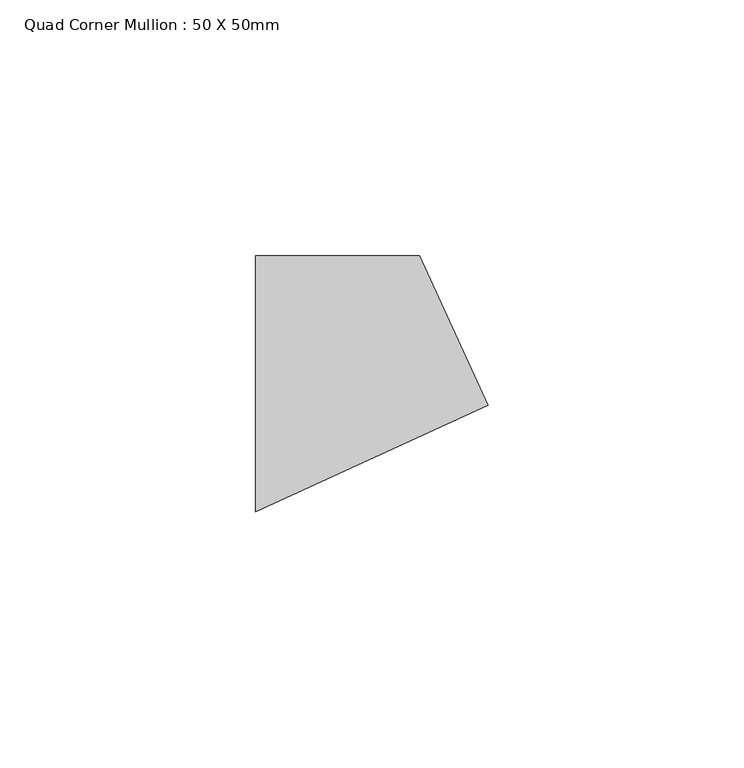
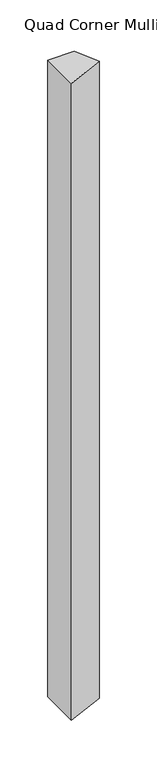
"""IFC4 building model written with IfcOpenShell, lengths in millimetres: member geometry, Quad Corner Mullion : 50 X 50mm."""

import ifcopenshell
import ifcopenshell.guid

model = None  # the IFC model being written
_history = None  # IfcOwnerHistory: only IFC2X3 demands one
_inside = {}  # id of a spatial element -> (the spatial element, [elements in it])
_under = {}  # id of a project, library or spatial element -> (it, [spatial elements below it])
_declared = {}  # id of a project -> (the project, [libraries it declares])
_typed = {}  # id of a type object -> (the type object, [elements of that type])
_made_of = {}  # id of a material, layer set ... -> (it, [elements and type objects made of it])


def new_model(schema):
    """Start an empty IFC model of exactly this schema.

    Asked for "IFC4X3", IfcOpenShell would pick the latest addendum, in which some entities
    have other attributes; the version numbers below select the first issue.
    IFC2X3 requires an IfcOwnerHistory on every rooted entity: one is made here for all.
    """
    global model, _history
    if schema == "IFC4X3":
        model = ifcopenshell.file(schema_version=(4, 3, 0, 0))
    else:
        model = ifcopenshell.file(schema=schema)
    _inside.clear()
    _under.clear()
    _declared.clear()
    _typed.clear()
    _made_of.clear()
    _history = None
    if model.schema == "IFC2X3":
        org = make("IfcOrganization", Name="unknown")
        user = make(
            "IfcPersonAndOrganization",
            ThePerson=make("IfcPerson", FamilyName="unknown"),
            TheOrganization=org,
        )
        app = make(
            "IfcApplication",
            ApplicationDeveloper=org,
            Version="unknown",
            ApplicationFullName="unknown",
            ApplicationIdentifier="unknown",
        )
        _history = make(
            "IfcOwnerHistory",
            OwningUser=user,
            OwningApplication=app,
            ChangeAction="ADDED",
            CreationDate=0,
        )
    return model


def make(cls, **values):
    """One entity of the class cls with the attributes given. An attribute that is None is left unset."""
    return model.create_entity(
        cls, **{name: value for name, value in values.items() if value is not None}
    )


def rooted(cls, **values):
    """An entity with a GlobalId (a new one), such as an element, a storey or a relation."""
    return make(cls, GlobalId=ifcopenshell.guid.new(), OwnerHistory=_history, **values)


def si_unit(unit_type, name, prefix=None):
    """IfcSIUnit, for example si_unit("LENGTHUNIT", "METRE", prefix="MILLI")."""
    return make("IfcSIUnit", UnitType=unit_type, Prefix=prefix, Name=name)


def assignment(units):
    """IfcUnitAssignment: the units of a project."""
    return None if units is None else make("IfcUnitAssignment", Units=units)


def point(xyz):
    """IfcCartesianPoint."""
    return None if xyz is None else make("IfcCartesianPoint", Coordinates=xyz)


def direction(xyz):
    """IfcDirection."""
    return None if xyz is None else make("IfcDirection", DirectionRatios=xyz)


def frame(location, z_axis=None, x_axis=None):
    """IfcAxis2Placement3D, a coordinate frame: its origin and axes. An axis left out is left unset."""
    return make(
        "IfcAxis2Placement3D",
        Location=point(location),
        Axis=direction(z_axis),
        RefDirection=direction(x_axis),
    )


def origin():
    """The frame at (0, 0, 0) with its axes left unset."""
    return frame((0.0, 0.0, 0.0))


def place(relative_to, where):
    """IfcLocalPlacement: puts the frame where relative to a parent placement (None: the world)."""
    return make(
        "IfcLocalPlacement", PlacementRelTo=relative_to, RelativePlacement=where
    )


def context(
    kind, dimensions, precision=None, world=None, true_north=None, identifier=None
):
    """IfcGeometricRepresentationContext, for example the 3D "Model" context."""
    return make(
        "IfcGeometricRepresentationContext",
        ContextIdentifier=identifier,
        ContextType=kind,
        CoordinateSpaceDimension=dimensions,
        Precision=precision,
        WorldCoordinateSystem=world,
        TrueNorth=true_north,
    )


def project(units=None, contexts=None):
    """IfcProject with its units and contexts."""
    return rooted(
        "IfcProject",
        Name="project",
        RepresentationContexts=contexts,
        UnitsInContext=assignment(units),
    )


def spatial(cls, under=None, at=None, **own):
    """A site, building, storey or space (cls), placed at a placement, below another one or the project."""
    s = rooted(cls, ObjectPlacement=at, **own)
    if under is not None:
        _under.setdefault(under.id(), (under, []))[1].append(s)
    return s


def polyline(points):
    """IfcPolyline through the points."""
    return make("IfcPolyline", Points=[point(p) for p in points])


def outline(outer, holes=None, kind="AREA"):
    """IfcArbitraryClosedProfileDef: a profile drawn as a closed curve; with holes, ...WithVoids."""
    if holes is None:
        return make("IfcArbitraryClosedProfileDef", ProfileType=kind, OuterCurve=outer)
    return make(
        "IfcArbitraryProfileDefWithVoids",
        ProfileType=kind,
        OuterCurve=outer,
        InnerCurves=holes,
    )


def extrude(swept, where, along, depth):
    """IfcExtrudedAreaSolid: the profile swept, set in the frame where, extruded along a direction by depth."""
    return make(
        "IfcExtrudedAreaSolid",
        SweptArea=swept,
        Position=where,
        ExtrudedDirection=direction(along),
        Depth=depth,
    )


def shape(context_of_items, identifier, shape_type, items):
    """IfcShapeRepresentation: the items that make up one representation, for example the "Body"."""
    return make(
        "IfcShapeRepresentation",
        ContextOfItems=context_of_items,
        RepresentationIdentifier=identifier,
        RepresentationType=shape_type,
        Items=items,
    )


def source(mapping_origin, context_of_items, identifier, shape_type, items):
    """IfcRepresentationMap: a shape defined once, which mapped items show again and again."""
    return make(
        "IfcRepresentationMap",
        MappingOrigin=mapping_origin,
        MappedRepresentation=shape(context_of_items, identifier, shape_type, items),
    )


def transform(
    local_origin,
    x_axis=None,
    y_axis=None,
    z_axis=None,
    scale=None,
    scale2=None,
    scale3=None,
    uniform=True,
):
    """IfcCartesianTransformationOperator3D, or its non-uniform kind. x_axis, y_axis, z_axis: its Axis1, 2, 3."""
    if uniform:
        return make(
            "IfcCartesianTransformationOperator3D",
            Axis1=direction(x_axis),
            Axis2=direction(y_axis),
            LocalOrigin=point(local_origin),
            Scale=scale,
            Axis3=direction(z_axis),
        )
    return make(
        "IfcCartesianTransformationOperator3DnonUniform",
        Axis1=direction(x_axis),
        Axis2=direction(y_axis),
        LocalOrigin=point(local_origin),
        Scale=scale,
        Axis3=direction(z_axis),
        Scale2=scale2,
        Scale3=scale3,
    )


def mapped(mapping_source, mapping_target):
    """IfcMappedItem: shows the shape of a source again, moved by a transform."""
    return make(
        "IfcMappedItem", MappingSource=mapping_source, MappingTarget=mapping_target
    )


def made_of(thing, what):
    """Note that an element or type object is made of a material, layer set ...; save() writes the relation."""
    if what is not None:
        _made_of.setdefault(what.id(), (what, []))[1].append(thing)
    return thing


def element(
    cls,
    number,
    at=None,
    inside=None,
    cuts=None,
    type_object=None,
    material=None,
    context=None,
    identifier="Body",
    shape_type=None,
    held_by="IfcProductDefinitionShape",
    body=None,
    shapes=None,
    **own,
):
    """One element of the class cls, such as IfcWall. Its Tag is "e" and its number.

    at: its placement. inside: the storey or other place that contains it. cuts: it is an
    opening in that element (IfcRelVoidsElement). A single representation is given by context,
    identifier, shape_type and body (its items); several are given by shapes. held_by: the class
    of the entity that holds the representations. save() writes the other relations.
    """
    e = rooted(cls, Tag="e%d" % number, ObjectPlacement=at, **own)
    if body is not None:
        shapes = [shape(context, identifier, shape_type, body)]
    if shapes is not None:
        e.Representation = make(held_by, Representations=shapes)
    if inside is not None:
        _inside.setdefault(inside.id(), (inside, []))[1].append(e)
    if cuts is not None:
        rooted(
            "IfcRelVoidsElement", RelatingBuildingElement=cuts, RelatedOpeningElement=e
        )
    if type_object is not None:
        _typed.setdefault(type_object.id(), (type_object, []))[1].append(e)
    return made_of(e, material)


def aggregate(whole, parts):
    """IfcRelAggregates: a whole, such as a stair, and the parts it consists of."""
    return rooted("IfcRelAggregates", RelatingObject=whole, RelatedObjects=parts)


def save(model, path):
    """Write the relations noted so far, then the file.

    IfcRelAggregates (storeys below a building ...), IfcRelContainedInSpatialStructure (elements
    in a storey), IfcRelDefinesByType, IfcRelAssociatesMaterial and IfcRelDeclares: one each for
    every whole, place, type object, material and project.
    """
    for whole, parts in _under.values():
        aggregate(whole, parts)
    for where, things in _inside.values():
        rooted(
            "IfcRelContainedInSpatialStructure",
            RelatedElements=things,
            RelatingStructure=where,
        )
    for kind, things in _typed.values():
        rooted("IfcRelDefinesByType", RelatedObjects=things, RelatingType=kind)
    for what, things in _made_of.values():
        rooted("IfcRelAssociatesMaterial", RelatedObjects=things, RelatingMaterial=what)
    for by, libraries in _declared.values():
        rooted("IfcRelDeclares", RelatingContext=by, RelatedDefinitions=libraries)
    model.write(path)


def quad_corner_mullion_50_x_50mm_a6aee9aa(model_context):
    return source(origin(), model_context, "Body", "SweptSolid", [
        extrude(outline(polyline([(29.4125559, -4.1926582), (-16.0523154, -25.0), (-16.0523154, 25.0), (16.0523154, 25.0), (29.4125559, -4.1926582)])), frame((0.0, 0.0, -815.8795558), z_axis=(0.0, 0.0, 1.0), x_axis=(1.0, 0.0, 0.0)), (0.0, 0.0, 1.0), 815.8795558),
    ])


if __name__ == "__main__":
    model = new_model("IFC4")
    model_context = context("Model", 3, world=origin())
    ifc_project = project(units=[si_unit("LENGTHUNIT", "METRE", prefix="MILLI")], contexts=[model_context])
    site = spatial("IfcSite", under=ifc_project)
    building = spatial("IfcBuilding", under=site)
    placement = place(None, origin())
    quad_corner_mullion_50_x_50mm_shape = quad_corner_mullion_50_x_50mm_a6aee9aa(model_context)
    element("IfcMember", 1, ObjectType="Quad Corner Mullion : 50 X 50mm", at=placement, inside=building, context=model_context, shape_type="MappedRepresentation", body=[
        mapped(quad_corner_mullion_50_x_50mm_shape, transform((0.0, 0.0, 0.0), x_axis=(1.0, 0.0, 0.0), y_axis=(0.0, 1.0, 0.0), z_axis=(0.0, 0.0, 1.0))),
    ])
    save(model, "model.ifc")
